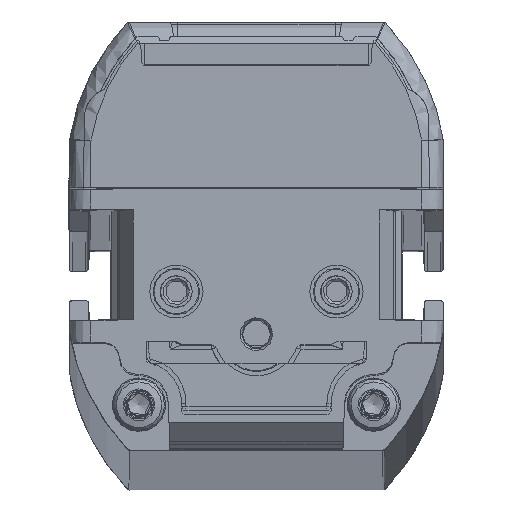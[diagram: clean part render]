
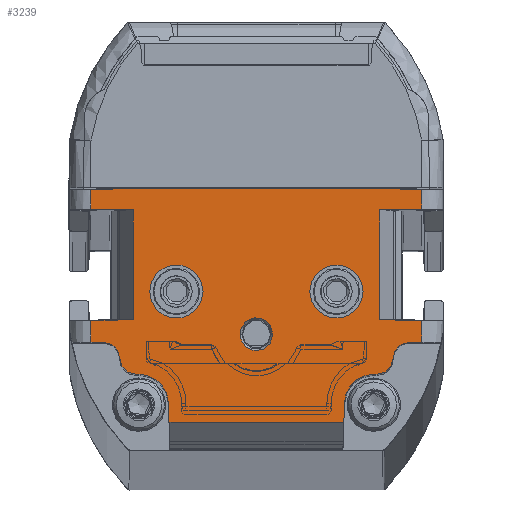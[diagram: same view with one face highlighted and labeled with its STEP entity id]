
A CAD part, top view. The second image highlights one B-rep face of the part: STEP entity #3239.
In plain terms, the highlighted planar face has unit normal (0, 0, 1).
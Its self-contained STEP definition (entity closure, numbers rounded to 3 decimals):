
#1178=FACE_BOUND('',#5343,.T.);
#1179=FACE_BOUND('',#5344,.T.);
#1180=FACE_BOUND('',#5345,.T.);
#1181=FACE_BOUND('',#5346,.T.);
#1900=CIRCLE('',#17502,2.5);
#1901=CIRCLE('',#17504,2.5);
#1902=CIRCLE('',#17506,1.55);
#1905=CIRCLE('',#17576,1.5);
#1906=CIRCLE('',#17577,1.5);
#1907=CIRCLE('',#17578,1.5);
#1908=CIRCLE('',#17579,1.5);
#1909=CIRCLE('',#17580,2.75);
#1910=CIRCLE('',#17581,2.75);
#3239=ADVANCED_FACE('',(#1178,#1179,#1180,#1181),#3754,.T.);
#3754=PLANE('',#17582);
#5343=EDGE_LOOP('',(#9281));
#5344=EDGE_LOOP('',(#9282));
#5345=EDGE_LOOP('',(#9283));
#5346=EDGE_LOOP('',(#9284,#9285,#9286,#9287,#9288,#9289,#9290,#9291,#9292,
#9293,#9294,#9295,#9296,#9297,#9298,#9299,#9300,#9301,#9302,#9303,#9304,
#9305,#9306,#9307,#9308,#9309));
#9281=ORIENTED_EDGE('',*,*,#13579,.T.);
#9282=ORIENTED_EDGE('',*,*,#13578,.F.);
#9283=ORIENTED_EDGE('',*,*,#13577,.F.);
#9284=ORIENTED_EDGE('',*,*,#13699,.F.);
#9285=ORIENTED_EDGE('',*,*,#13700,.T.);
#9286=ORIENTED_EDGE('',*,*,#13701,.T.);
#9287=ORIENTED_EDGE('',*,*,#13702,.T.);
#9288=ORIENTED_EDGE('',*,*,#13630,.T.);
#9289=ORIENTED_EDGE('',*,*,#13576,.T.);
#9290=ORIENTED_EDGE('',*,*,#13573,.T.);
#9291=ORIENTED_EDGE('',*,*,#13572,.T.);
#9292=ORIENTED_EDGE('',*,*,#13698,.T.);
#9293=ORIENTED_EDGE('',*,*,#13703,.F.);
#9294=ORIENTED_EDGE('',*,*,#13704,.F.);
#9295=ORIENTED_EDGE('',*,*,#13705,.F.);
#9296=ORIENTED_EDGE('',*,*,#13692,.T.);
#9297=ORIENTED_EDGE('',*,*,#13568,.F.);
#9298=ORIENTED_EDGE('',*,*,#13564,.T.);
#9299=ORIENTED_EDGE('',*,*,#13563,.F.);
#9300=ORIENTED_EDGE('',*,*,#13603,.T.);
#9301=ORIENTED_EDGE('',*,*,#13706,.F.);
#9302=ORIENTED_EDGE('',*,*,#13707,.T.);
#9303=ORIENTED_EDGE('',*,*,#13708,.T.);
#9304=ORIENTED_EDGE('',*,*,#13709,.F.);
#9305=ORIENTED_EDGE('',*,*,#13710,.F.);
#9306=ORIENTED_EDGE('',*,*,#13711,.F.);
#9307=ORIENTED_EDGE('',*,*,#13611,.T.);
#9308=ORIENTED_EDGE('',*,*,#13712,.F.);
#9309=ORIENTED_EDGE('',*,*,#13713,.F.);
#11499=VERTEX_POINT('',#29891);
#11500=VERTEX_POINT('',#29893);
#11501=VERTEX_POINT('',#29897);
#11502=VERTEX_POINT('',#29901);
#11504=VERTEX_POINT('',#29907);
#11506=VERTEX_POINT('',#29911);
#11507=VERTEX_POINT('',#29915);
#11508=VERTEX_POINT('',#29919);
#11509=VERTEX_POINT('',#29923);
#11510=VERTEX_POINT('',#29926);
#11511=VERTEX_POINT('',#29929);
#11528=VERTEX_POINT('',#30023);
#11533=VERTEX_POINT('',#30037);
#11534=VERTEX_POINT('',#30039);
#11547=VERTEX_POINT('',#30079);
#11581=VERTEX_POINT('',#30332);
#11585=VERTEX_POINT('',#30342);
#11586=VERTEX_POINT('',#30346);
#11587=VERTEX_POINT('',#30347);
#11588=VERTEX_POINT('',#30349);
#11589=VERTEX_POINT('',#30351);
#11590=VERTEX_POINT('',#30354);
#11591=VERTEX_POINT('',#30356);
#11592=VERTEX_POINT('',#30359);
#11593=VERTEX_POINT('',#30361);
#11594=VERTEX_POINT('',#30363);
#11595=VERTEX_POINT('',#30365);
#11596=VERTEX_POINT('',#30367);
#11597=VERTEX_POINT('',#30370);
#13563=EDGE_CURVE('',#11500,#11499,#15088,.T.);
#13564=EDGE_CURVE('',#11501,#11499,#15089,.T.);
#13568=EDGE_CURVE('',#11501,#11502,#15092,.T.);
#13572=EDGE_CURVE('',#11504,#11506,#15095,.T.);
#13573=EDGE_CURVE('',#11507,#11504,#15096,.T.);
#13576=EDGE_CURVE('',#11508,#11507,#15098,.T.);
#13577=EDGE_CURVE('',#11509,#11509,#1900,.T.);
#13578=EDGE_CURVE('',#11510,#11510,#1901,.T.);
#13579=EDGE_CURVE('',#11511,#11511,#1902,.T.);
#13603=EDGE_CURVE('',#11500,#11528,#15113,.T.);
#13611=EDGE_CURVE('',#11533,#11534,#15119,.T.);
#13630=EDGE_CURVE('',#11547,#11508,#15132,.T.);
#13692=EDGE_CURVE('',#11581,#11502,#15175,.T.);
#13698=EDGE_CURVE('',#11506,#11585,#15177,.T.);
#13699=EDGE_CURVE('',#11586,#11587,#15178,.T.);
#13700=EDGE_CURVE('',#11586,#11588,#1905,.T.);
#13701=EDGE_CURVE('',#11588,#11589,#1906,.T.);
#13702=EDGE_CURVE('',#11589,#11547,#15179,.T.);
#13703=EDGE_CURVE('',#11590,#11585,#15180,.T.);
#13704=EDGE_CURVE('',#11591,#11590,#15181,.T.);
#13705=EDGE_CURVE('',#11581,#11591,#15182,.T.);
#13706=EDGE_CURVE('',#11592,#11528,#15183,.T.);
#13707=EDGE_CURVE('',#11592,#11593,#1907,.T.);
#13708=EDGE_CURVE('',#11593,#11594,#1908,.T.);
#13709=EDGE_CURVE('',#11595,#11594,#15184,.T.);
#13710=EDGE_CURVE('',#11596,#11595,#1909,.T.);
#13711=EDGE_CURVE('',#11533,#11596,#15185,.T.);
#13712=EDGE_CURVE('',#11597,#11534,#15186,.T.);
#13713=EDGE_CURVE('',#11587,#11597,#1910,.T.);
#15088=LINE('',#29894,#16251);
#15089=LINE('',#29896,#16252);
#15092=LINE('',#29904,#16255);
#15095=LINE('',#29912,#16258);
#15096=LINE('',#29914,#16259);
#15098=LINE('',#29920,#16261);
#15113=LINE('',#30024,#16276);
#15119=LINE('',#30040,#16282);
#15132=LINE('',#30078,#16295);
#15175=LINE('',#30331,#16338);
#15177=LINE('',#30343,#16340);
#15178=LINE('',#30345,#16341);
#15179=LINE('',#30352,#16342);
#15180=LINE('',#30353,#16343);
#15181=LINE('',#30355,#16344);
#15182=LINE('',#30357,#16345);
#15183=LINE('',#30358,#16346);
#15184=LINE('',#30364,#16347);
#15185=LINE('',#30368,#16348);
#15186=LINE('',#30369,#16349);
#16251=VECTOR('',#20699,1.);
#16252=VECTOR('',#20702,1.);
#16255=VECTOR('',#20709,1.);
#16258=VECTOR('',#20716,1.);
#16259=VECTOR('',#20719,1.);
#16261=VECTOR('',#20725,1.);
#16276=VECTOR('',#20776,1.);
#16282=VECTOR('',#20790,1.);
#16295=VECTOR('',#20829,1.);
#16338=VECTOR('',#20940,1.);
#16340=VECTOR('',#20952,1.);
#16341=VECTOR('',#20955,1.);
#16342=VECTOR('',#20960,1.);
#16343=VECTOR('',#20961,1.);
#16344=VECTOR('',#20962,1.);
#16345=VECTOR('',#20963,1.);
#16346=VECTOR('',#20964,1.);
#16347=VECTOR('',#20969,1.);
#16348=VECTOR('',#20972,1.);
#16349=VECTOR('',#20973,1.);
#17502=AXIS2_PLACEMENT_3D('',#29922,#20728,#20729);
#17504=AXIS2_PLACEMENT_3D('',#29925,#20732,#20733);
#17506=AXIS2_PLACEMENT_3D('',#29928,#20736,#20737);
#17576=AXIS2_PLACEMENT_3D('',#30348,#20956,#20957);
#17577=AXIS2_PLACEMENT_3D('',#30350,#20958,#20959);
#17578=AXIS2_PLACEMENT_3D('',#30360,#20965,#20966);
#17579=AXIS2_PLACEMENT_3D('',#30362,#20967,#20968);
#17580=AXIS2_PLACEMENT_3D('',#30366,#20970,#20971);
#17581=AXIS2_PLACEMENT_3D('',#30371,#20974,#20975);
#17582=AXIS2_PLACEMENT_3D('',#30372,#20976,#20977);
#20699=DIRECTION('',(1.,0.017,0.));
#20702=DIRECTION('',(0.,-1.,0.));
#20709=DIRECTION('',(-1.,0.017,0.));
#20716=DIRECTION('',(1.,0.017,0.));
#20719=DIRECTION('',(0.,1.,0.));
#20725=DIRECTION('',(-1.,0.017,0.));
#20728=DIRECTION('',(0.,0.,1.));
#20729=DIRECTION('',(1.,0.,0.));
#20732=DIRECTION('',(0.,0.,1.));
#20733=DIRECTION('',(1.,0.,0.));
#20736=DIRECTION('',(0.,0.,-1.));
#20737=DIRECTION('',(1.,0.,0.));
#20776=DIRECTION('',(0.,-1.,0.));
#20790=DIRECTION('',(1.,0.,0.));
#20829=DIRECTION('',(0.,1.,0.));
#20940=DIRECTION('',(0.,-1.,0.));
#20952=DIRECTION('',(0.,1.,0.));
#20955=DIRECTION('',(-1.,0.,0.));
#20956=DIRECTION('',(0.,0.,1.));
#20957=DIRECTION('',(1.,0.,0.));
#20958=DIRECTION('',(0.,0.,-1.));
#20959=DIRECTION('',(1.,0.,0.));
#20960=DIRECTION('',(1.,0.,0.));
#20961=DIRECTION('',(1.,-0.017,0.));
#20962=DIRECTION('',(1.,0.,0.));
#20963=DIRECTION('',(1.,0.017,0.));
#20964=DIRECTION('',(-1.,0.,0.));
#20965=DIRECTION('',(0.,0.,-1.));
#20966=DIRECTION('',(1.,0.,0.));
#20967=DIRECTION('',(0.,0.,1.));
#20968=DIRECTION('',(1.,0.,0.));
#20969=DIRECTION('',(-1.,0.,0.));
#20970=DIRECTION('',(0.,0.,1.));
#20971=DIRECTION('',(1.,0.,0.));
#20972=DIRECTION('',(-0.035,0.999,0.));
#20973=DIRECTION('',(-0.035,-0.999,0.));
#20974=DIRECTION('',(0.,0.,1.));
#20975=DIRECTION('',(1.,0.,0.));
#20976=DIRECTION('',(0.,0.,1.));
#20977=DIRECTION('',(1.,0.,0.));
#29891=CARTESIAN_POINT('',(-11.55,12.107,2199.));
#29893=CARTESIAN_POINT('',(-15.5,12.038,2199.));
#29894=CARTESIAN_POINT('',(-17.709,11.999,2199.));
#29896=CARTESIAN_POINT('',(-11.55,0.,2199.));
#29897=CARTESIAN_POINT('',(-11.55,22.393,2199.));
#29901=CARTESIAN_POINT('',(-15.5,22.462,2199.));
#29904=CARTESIAN_POINT('',(-17.107,22.49,2199.));
#29907=CARTESIAN_POINT('',(11.55,22.393,2199.));
#29911=CARTESIAN_POINT('',(15.5,22.462,2199.));
#29912=CARTESIAN_POINT('',(-17.882,21.88,2199.));
#29914=CARTESIAN_POINT('',(11.55,0.,2199.));
#29915=CARTESIAN_POINT('',(11.55,12.107,2199.));
#29919=CARTESIAN_POINT('',(15.5,12.038,2199.));
#29920=CARTESIAN_POINT('',(-17.28,12.61,2199.));
#29922=CARTESIAN_POINT('',(-7.5,14.75,2199.));
#29923=CARTESIAN_POINT('',(-5.,14.75,2199.));
#29925=CARTESIAN_POINT('',(7.5,14.75,2199.));
#29926=CARTESIAN_POINT('',(10.,14.75,2199.));
#29928=CARTESIAN_POINT('',(0.,10.75,2199.));
#29929=CARTESIAN_POINT('',(1.55,10.75,2199.));
#30023=CARTESIAN_POINT('',(-15.5,10.,2199.));
#30024=CARTESIAN_POINT('',(-15.5,0.,2199.));
#30037=CARTESIAN_POINT('',(-8.189,2.5,2199.));
#30039=CARTESIAN_POINT('',(8.189,2.5,2199.));
#30040=CARTESIAN_POINT('',(-17.5,2.5,2199.));
#30078=CARTESIAN_POINT('',(15.5,0.,2199.));
#30079=CARTESIAN_POINT('',(15.5,10.,2199.));
#30331=CARTESIAN_POINT('',(-15.5,0.,2199.));
#30332=CARTESIAN_POINT('',(-15.5,24.317,2199.));
#30342=CARTESIAN_POINT('',(15.5,24.317,2199.));
#30343=CARTESIAN_POINT('',(15.5,0.,2199.));
#30345=CARTESIAN_POINT('',(23.25,7.,2199.));
#30346=CARTESIAN_POINT('',(11.3,7.,2199.));
#30347=CARTESIAN_POINT('',(11.002,7.,2199.));
#30348=CARTESIAN_POINT('',(11.3,8.5,2199.));
#30349=CARTESIAN_POINT('',(12.8,8.5,2199.));
#30350=CARTESIAN_POINT('',(14.3,8.5,2199.));
#30351=CARTESIAN_POINT('',(14.3,10.,2199.));
#30352=CARTESIAN_POINT('',(-17.5,10.,2199.));
#30353=CARTESIAN_POINT('',(-17.066,24.886,2199.));
#30354=CARTESIAN_POINT('',(13.025,24.36,2199.));
#30355=CARTESIAN_POINT('',(-17.5,24.36,2199.));
#30356=CARTESIAN_POINT('',(-13.025,24.36,2199.));
#30357=CARTESIAN_POINT('',(-17.924,24.275,2199.));
#30358=CARTESIAN_POINT('',(-17.5,10.,2199.));
#30359=CARTESIAN_POINT('',(-14.3,10.,2199.));
#30360=CARTESIAN_POINT('',(-14.3,8.5,2199.));
#30361=CARTESIAN_POINT('',(-12.8,8.5,2199.));
#30362=CARTESIAN_POINT('',(-11.3,8.5,2199.));
#30363=CARTESIAN_POINT('',(-11.3,7.,2199.));
#30364=CARTESIAN_POINT('',(-11.,7.,2199.));
#30365=CARTESIAN_POINT('',(-11.002,7.,2199.));
#30366=CARTESIAN_POINT('',(-11.002,4.25,2199.));
#30367=CARTESIAN_POINT('',(-8.253,4.346,2199.));
#30368=CARTESIAN_POINT('',(-8.25,4.25,2199.));
#30369=CARTESIAN_POINT('',(8.25,4.25,2199.));
#30370=CARTESIAN_POINT('',(8.253,4.346,2199.));
#30371=CARTESIAN_POINT('',(11.002,4.25,2199.));
#30372=CARTESIAN_POINT('',(-17.5,0.,2199.));
